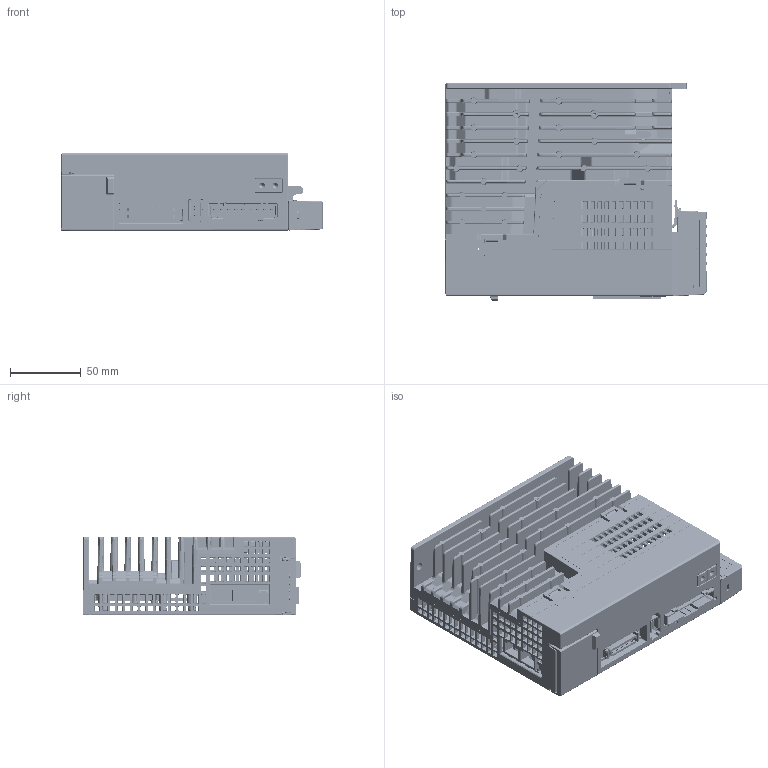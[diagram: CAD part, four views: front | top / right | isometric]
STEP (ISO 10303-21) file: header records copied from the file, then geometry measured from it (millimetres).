
FILE_DESCRIPTION((''),'2;1');
FILE_NAME('PRT0002','2023-02-28T11:14:07',('RD0058'),(''),'CREO PARAMETRIC BY PTC INC, 2016510','CREO PARAMETRIC BY PTC INC, 2016510','');
FILE_SCHEMA(('CONFIG_CONTROL_DESIGN','SHAPE_APPEARANCE_LAYERS_GROUPS'));
Products named in the file (1): PRT0002
Bounding box: 184 x 153 x 55 mm (x, y, z)
Surface area: 267754.8 mm2 (no closed solid volume)
Topology: 0 solids, 26 shells, 9301 faces, 25846 edges, 16760 vertices
Faces by surface type: plane 5670, cylinder 2567, cone 411, torus 371, bspline 238, sphere 22, extrusion 22
Entity records: 350943 total; most frequent: CARTESIAN_POINT 79459, ORIENTED_EDGE 51588, DIRECTION 42946, EDGE_CURVE 25794, VECTOR 17978, LINE 17956, VERTEX_POINT 16760, AXIS2_PLACEMENT_3D 12484
